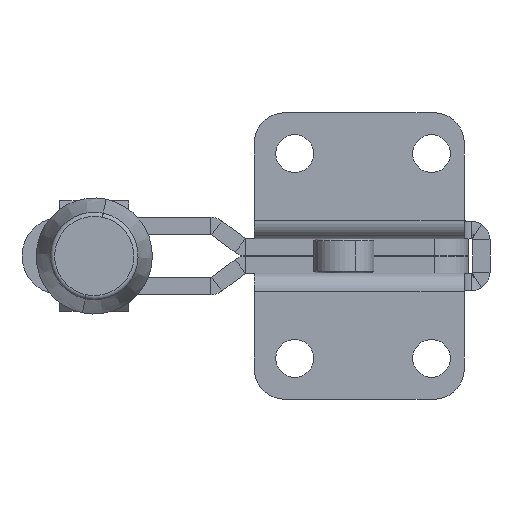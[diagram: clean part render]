
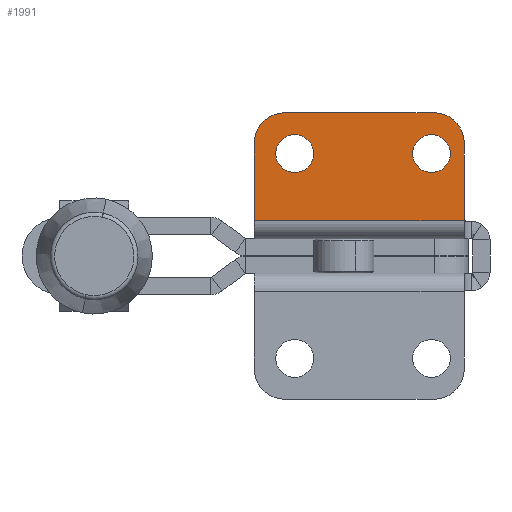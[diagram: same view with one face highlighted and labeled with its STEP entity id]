
A CAD part, front view. The second image highlights one B-rep face of the part: STEP entity #1991.
In plain terms, the highlighted planar face has unit normal (0, -1, 0).
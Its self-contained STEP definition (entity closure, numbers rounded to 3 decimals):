
#10 = AXIS2_PLACEMENT_3D ( 'NONE', #11618, #5821, #12555 ) ;
#124 = AXIS2_PLACEMENT_3D ( 'NONE', #4902, #11665, #5881 ) ;
#228 = DIRECTION ( 'NONE',  ( 0., 0., 1. ) ) ;
#396 = ORIENTED_EDGE ( 'NONE', *, *, #10945, .T. ) ;
#480 = DIRECTION ( 'NONE',  ( 0., 1., 0. ) ) ;
#938 = VERTEX_POINT ( 'NONE', #4421 ) ;
#959 = EDGE_CURVE ( 'NONE', #3218, #9075, #9403, .T. ) ;
#1283 = VERTEX_POINT ( 'NONE', #4560 ) ;
#1284 = DIRECTION ( 'NONE',  ( 0., 1., 0. ) ) ;
#1363 = CARTESIAN_POINT ( 'NONE',  ( -20.7, -2.1, 14.1 ) ) ;
#1559 = DIRECTION ( 'NONE',  ( 0., 0., 1. ) ) ;
#1623 = VECTOR ( 'NONE', #11173, 1000. ) ;
#1739 = ORIENTED_EDGE ( 'NONE', *, *, #10682, .T. ) ;
#1776 = LINE ( 'NONE', #6331, #6640 ) ;
#1803 = AXIS2_PLACEMENT_3D ( 'NONE', #7094, #1284, #8058 ) ;
#1991 = ADVANCED_FACE ( 'NONE', ( #6769, #4209, #9978 ), #10203, .F. ) ;
#2228 = EDGE_CURVE ( 'NONE', #6866, #11185, #7225, .T. ) ;
#2847 = CARTESIAN_POINT ( 'NONE',  ( -25.4, -2.1, 0. ) ) ;
#3218 = VERTEX_POINT ( 'NONE', #4562 ) ;
#3462 = EDGE_CURVE ( 'NONE', #7167, #1283, #8982, .T. ) ;
#3565 = DIRECTION ( 'NONE',  ( 0., -1., 0. ) ) ;
#3644 = CARTESIAN_POINT ( 'NONE',  ( -20.7, -2.1, 11.9 ) ) ;
#4041 = VERTEX_POINT ( 'NONE', #8142 ) ;
#4209 = FACE_BOUND ( 'NONE', #11696, .T. ) ;
#4342 = ORIENTED_EDGE ( 'NONE', *, *, #7045, .T. ) ;
#4380 = EDGE_CURVE ( 'NONE', #11185, #9075, #9458, .T. ) ;
#4421 = CARTESIAN_POINT ( 'NONE',  ( -1., -2.1, 13.15 ) ) ;
#4422 = DIRECTION ( 'NONE',  ( 0., 0., 1. ) ) ;
#4560 = CARTESIAN_POINT ( 'NONE',  ( -20.7, -2.1, 9.7 ) ) ;
#4562 = CARTESIAN_POINT ( 'NONE',  ( -1., -2.1, 4.1 ) ) ;
#4570 = AXIS2_PLACEMENT_3D ( 'NONE', #9390, #3565, #10349 ) ;
#4624 = DIRECTION ( 'NONE',  ( 0., 0., 1. ) ) ;
#4645 = CIRCLE ( 'NONE', #12427, 2.2 ) ;
#4902 = CARTESIAN_POINT ( 'NONE',  ( -4.5, -2.1, 13.15 ) ) ;
#4946 = ORIENTED_EDGE ( 'NONE', *, *, #2228, .T. ) ;
#5013 = VECTOR ( 'NONE', #11642, 1000. ) ;
#5553 = ORIENTED_EDGE ( 'NONE', *, *, #6949, .T. ) ;
#5628 = CARTESIAN_POINT ( 'NONE',  ( -21.9, -2.1, 16.65 ) ) ;
#5732 = CARTESIAN_POINT ( 'NONE',  ( -25.4, -2.1, 13.15 ) ) ;
#5821 = DIRECTION ( 'NONE',  ( 0., 1., 0. ) ) ;
#5881 = DIRECTION ( 'NONE',  ( 0., 0., 1. ) ) ;
#5984 = CARTESIAN_POINT ( 'NONE',  ( -4.8, -2.1, 14.1 ) ) ;
#6044 = DIRECTION ( 'NONE',  ( 0., 1., 0. ) ) ;
#6331 = CARTESIAN_POINT ( 'NONE',  ( -1., -2.1, 0. ) ) ;
#6442 = EDGE_LOOP ( 'NONE', ( #12347, #4946, #7516, #7801, #396, #5553 ) ) ;
#6640 = VECTOR ( 'NONE', #4422, 1000. ) ;
#6769 = FACE_BOUND ( 'NONE', #10754, .T. ) ;
#6866 = VERTEX_POINT ( 'NONE', #5628 ) ;
#6949 = EDGE_CURVE ( 'NONE', #938, #7066, #10300, .T. ) ;
#7045 = EDGE_CURVE ( 'NONE', #4041, #7656, #11351, .T. ) ;
#7066 = VERTEX_POINT ( 'NONE', #9897 ) ;
#7094 = CARTESIAN_POINT ( 'NONE',  ( -20.7, -2.1, 11.9 ) ) ;
#7167 = VERTEX_POINT ( 'NONE', #1363 ) ;
#7209 = ORIENTED_EDGE ( 'NONE', *, *, #3462, .T. ) ;
#7225 = CIRCLE ( 'NONE', #4570, 3.5 ) ;
#7516 = ORIENTED_EDGE ( 'NONE', *, *, #4380, .T. ) ;
#7656 = VERTEX_POINT ( 'NONE', #5984 ) ;
#7801 = ORIENTED_EDGE ( 'NONE', *, *, #959, .F. ) ;
#8042 = CARTESIAN_POINT ( 'NONE',  ( -25.4, -2.1, 4.1 ) ) ;
#8058 = DIRECTION ( 'NONE',  ( 0., 0., 1. ) ) ;
#8142 = CARTESIAN_POINT ( 'NONE',  ( -4.8, -2.1, 9.7 ) ) ;
#8559 = CARTESIAN_POINT ( 'NONE',  ( 0., -2.1, 0. ) ) ;
#8572 = AXIS2_PLACEMENT_3D ( 'NONE', #11824, #6044, #228 ) ;
#8698 = AXIS2_PLACEMENT_3D ( 'NONE', #8559, #480, #1559 ) ;
#8982 = CIRCLE ( 'NONE', #1803, 2.2 ) ;
#9075 = VERTEX_POINT ( 'NONE', #8042 ) ;
#9144 = VECTOR ( 'NONE', #9595, 1000. ) ;
#9390 = CARTESIAN_POINT ( 'NONE',  ( -21.9, -2.1, 13.15 ) ) ;
#9403 = LINE ( 'NONE', #10066, #1623 ) ;
#9458 = LINE ( 'NONE', #2847, #9144 ) ;
#9492 = EDGE_CURVE ( 'NONE', #7066, #6866, #10777, .T. ) ;
#9595 = DIRECTION ( 'NONE',  ( 0., 0., -1. ) ) ;
#9796 = ORIENTED_EDGE ( 'NONE', *, *, #12301, .T. ) ;
#9897 = CARTESIAN_POINT ( 'NONE',  ( -4.5, -2.1, 16.65 ) ) ;
#9978 = FACE_OUTER_BOUND ( 'NONE', #6442, .T. ) ;
#10066 = CARTESIAN_POINT ( 'NONE',  ( -25.4, -2.1, 4.1 ) ) ;
#10203 = PLANE ( 'NONE',  #8698 ) ;
#10300 = CIRCLE ( 'NONE', #124, 3.5 ) ;
#10349 = DIRECTION ( 'NONE',  ( 0., 0., 1. ) ) ;
#10424 = DIRECTION ( 'NONE',  ( 0., 1., 0. ) ) ;
#10677 = CARTESIAN_POINT ( 'NONE',  ( 0., -2.1, 16.65 ) ) ;
#10682 = EDGE_CURVE ( 'NONE', #7656, #4041, #11641, .T. ) ;
#10754 = EDGE_LOOP ( 'NONE', ( #1739, #4342 ) ) ;
#10777 = LINE ( 'NONE', #10677, #5013 ) ;
#10945 = EDGE_CURVE ( 'NONE', #3218, #938, #1776, .T. ) ;
#11173 = DIRECTION ( 'NONE',  ( -1., 0., 0. ) ) ;
#11185 = VERTEX_POINT ( 'NONE', #5732 ) ;
#11351 = CIRCLE ( 'NONE', #8572, 2.2 ) ;
#11618 = CARTESIAN_POINT ( 'NONE',  ( -4.8, -2.1, 11.9 ) ) ;
#11641 = CIRCLE ( 'NONE', #10, 2.2 ) ;
#11642 = DIRECTION ( 'NONE',  ( -1., 0., 0. ) ) ;
#11665 = DIRECTION ( 'NONE',  ( 0., -1., 0. ) ) ;
#11696 = EDGE_LOOP ( 'NONE', ( #7209, #9796 ) ) ;
#11824 = CARTESIAN_POINT ( 'NONE',  ( -4.8, -2.1, 11.9 ) ) ;
#12301 = EDGE_CURVE ( 'NONE', #1283, #7167, #4645, .T. ) ;
#12347 = ORIENTED_EDGE ( 'NONE', *, *, #9492, .T. ) ;
#12427 = AXIS2_PLACEMENT_3D ( 'NONE', #3644, #10424, #4624 ) ;
#12555 = DIRECTION ( 'NONE',  ( 0., 0., 1. ) ) ;
